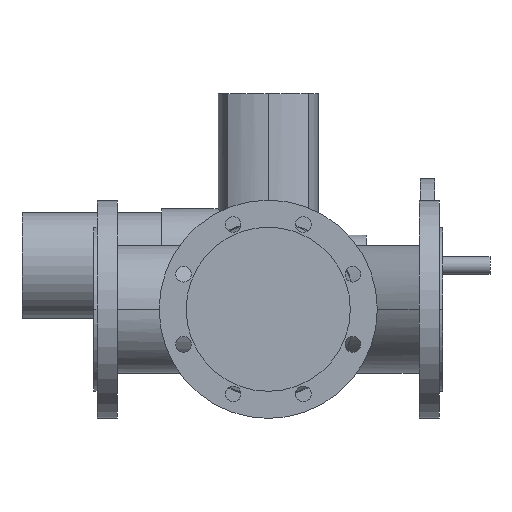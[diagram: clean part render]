
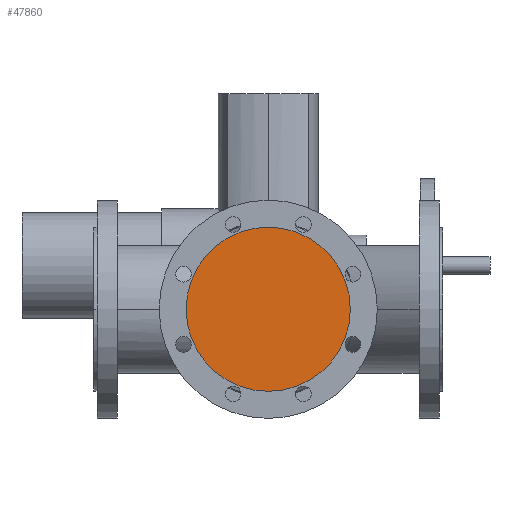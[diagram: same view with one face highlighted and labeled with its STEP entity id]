
A CAD part, front view. The second image highlights one B-rep face of the part: STEP entity #47860.
In plain terms, the highlighted planar face has unit normal (0, -1, 0).
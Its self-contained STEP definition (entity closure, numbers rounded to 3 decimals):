
#6020=CARTESIAN_POINT('',(106.,-200.,0.));
#6030=VERTEX_POINT('',#6020);
#6060=CARTESIAN_POINT('',(200.,-200.,0.));
#6070=DIRECTION('',(0.,1.,0.));
#6080=DIRECTION('',(1.,0.,0.));
#6090=AXIS2_PLACEMENT_3D('',#6060,#6070,#6080);
#6100=CIRCLE('',#6090,94.);
#6110=CARTESIAN_POINT('',(294.,-200.,0.));
#6120=VERTEX_POINT('',#6110);
#6130=EDGE_CURVE('',#6120,#6030,#6100,.T.);
#47760=CARTESIAN_POINT('',(247.,-200.,0.));
#47770=DIRECTION('',(0.,-1.,0.));
#47780=DIRECTION('',(-1.,0.,0.));
#47790=AXIS2_PLACEMENT_3D('',#47760,#47770,#47780);
#47800=PLANE('',#47790);
#47810=EDGE_CURVE('',#6030,#6120,#6100,.T.);
#47820=ORIENTED_EDGE('',*,*,#47810,.F.);
#47830=ORIENTED_EDGE('',*,*,#6130,.F.);
#47840=EDGE_LOOP('',(#47830,#47820));
#47850=FACE_OUTER_BOUND('',#47840,.T.);
#47860=ADVANCED_FACE('',(#47850),#47800,.T.);
